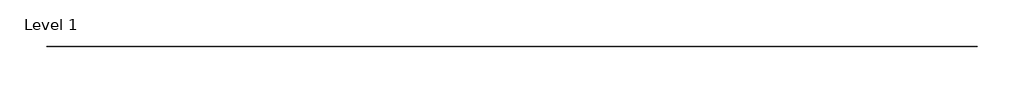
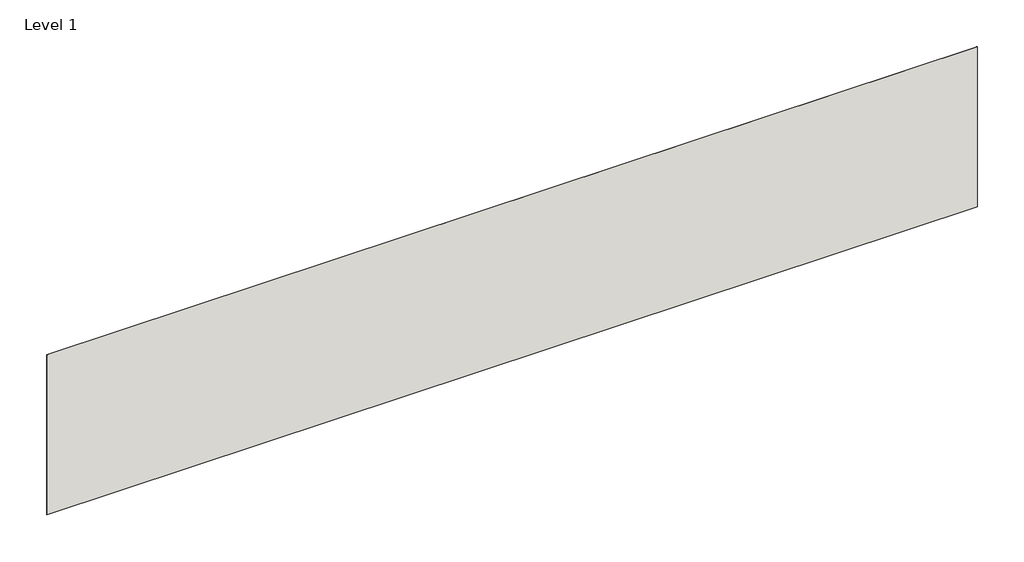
# One storey: 1 wall.
"""IFC4 building model written with IfcOpenShell, lengths in millimetres."""

import ifcopenshell
import ifcopenshell.guid

model = None  # the IFC model being written
_history = None  # IfcOwnerHistory: only IFC2X3 demands one
_inside = {}  # id of a spatial element -> (the spatial element, [elements in it])
_under = {}  # id of a project, library or spatial element -> (it, [spatial elements below it])
_declared = {}  # id of a project -> (the project, [libraries it declares])
_typed = {}  # id of a type object -> (the type object, [elements of that type])
_made_of = {}  # id of a material, layer set ... -> (it, [elements and type objects made of it])


def new_model(schema):
    """Start an empty IFC model of exactly this schema.

    Asked for "IFC4X3", IfcOpenShell would pick the latest addendum, in which some entities
    have other attributes; the version numbers below select the first issue.
    IFC2X3 requires an IfcOwnerHistory on every rooted entity: one is made here for all.
    """
    global model, _history
    if schema == "IFC4X3":
        model = ifcopenshell.file(schema_version=(4, 3, 0, 0))
    else:
        model = ifcopenshell.file(schema=schema)
    _inside.clear()
    _under.clear()
    _declared.clear()
    _typed.clear()
    _made_of.clear()
    _history = None
    if model.schema == "IFC2X3":
        org = make("IfcOrganization", Name="unknown")
        user = make(
            "IfcPersonAndOrganization",
            ThePerson=make("IfcPerson", FamilyName="unknown"),
            TheOrganization=org,
        )
        app = make(
            "IfcApplication",
            ApplicationDeveloper=org,
            Version="unknown",
            ApplicationFullName="unknown",
            ApplicationIdentifier="unknown",
        )
        _history = make(
            "IfcOwnerHistory",
            OwningUser=user,
            OwningApplication=app,
            ChangeAction="ADDED",
            CreationDate=0,
        )
    return model


def make(cls, **values):
    """One entity of the class cls with the attributes given. An attribute that is None is left unset."""
    return model.create_entity(
        cls, **{name: value for name, value in values.items() if value is not None}
    )


def rooted(cls, **values):
    """An entity with a GlobalId (a new one), such as an element, a storey or a relation."""
    return make(cls, GlobalId=ifcopenshell.guid.new(), OwnerHistory=_history, **values)


def si_unit(unit_type, name, prefix=None):
    """IfcSIUnit, for example si_unit("LENGTHUNIT", "METRE", prefix="MILLI")."""
    return make("IfcSIUnit", UnitType=unit_type, Prefix=prefix, Name=name)


def assignment(units):
    """IfcUnitAssignment: the units of a project."""
    return None if units is None else make("IfcUnitAssignment", Units=units)


def point(xyz):
    """IfcCartesianPoint."""
    return None if xyz is None else make("IfcCartesianPoint", Coordinates=xyz)


def direction(xyz):
    """IfcDirection."""
    return None if xyz is None else make("IfcDirection", DirectionRatios=xyz)


def frame(location, z_axis=None, x_axis=None):
    """IfcAxis2Placement3D, a coordinate frame: its origin and axes. An axis left out is left unset."""
    return make(
        "IfcAxis2Placement3D",
        Location=point(location),
        Axis=direction(z_axis),
        RefDirection=direction(x_axis),
    )


def origin():
    """The frame at (0, 0, 0) with its axes left unset."""
    return frame((0.0, 0.0, 0.0))


def origin_with_axes():
    """The frame at (0, 0, 0) with the z axis (0, 0, 1) and the x axis (1, 0, 0) written out."""
    return frame((0.0, 0.0, 0.0), z_axis=(0.0, 0.0, 1.0), x_axis=(1.0, 0.0, 0.0))


def place(relative_to, where):
    """IfcLocalPlacement: puts the frame where relative to a parent placement (None: the world)."""
    return make(
        "IfcLocalPlacement", PlacementRelTo=relative_to, RelativePlacement=where
    )


def context(
    kind, dimensions, precision=None, world=None, true_north=None, identifier=None
):
    """IfcGeometricRepresentationContext, for example the 3D "Model" context."""
    return make(
        "IfcGeometricRepresentationContext",
        ContextIdentifier=identifier,
        ContextType=kind,
        CoordinateSpaceDimension=dimensions,
        Precision=precision,
        WorldCoordinateSystem=world,
        TrueNorth=true_north,
    )


def project(units=None, contexts=None):
    """IfcProject with its units and contexts."""
    return rooted(
        "IfcProject",
        Name="project",
        RepresentationContexts=contexts,
        UnitsInContext=assignment(units),
    )


def spatial(cls, under=None, at=None, **own):
    """A site, building, storey or space (cls), placed at a placement, below another one or the project."""
    s = rooted(cls, ObjectPlacement=at, **own)
    if under is not None:
        _under.setdefault(under.id(), (under, []))[1].append(s)
    return s


def polyline(points):
    """IfcPolyline through the points."""
    return make("IfcPolyline", Points=[point(p) for p in points])


def outline(outer, holes=None, kind="AREA"):
    """IfcArbitraryClosedProfileDef: a profile drawn as a closed curve; with holes, ...WithVoids."""
    if holes is None:
        return make("IfcArbitraryClosedProfileDef", ProfileType=kind, OuterCurve=outer)
    return make(
        "IfcArbitraryProfileDefWithVoids",
        ProfileType=kind,
        OuterCurve=outer,
        InnerCurves=holes,
    )


def extrude(swept, where, along, depth):
    """IfcExtrudedAreaSolid: the profile swept, set in the frame where, extruded along a direction by depth."""
    return make(
        "IfcExtrudedAreaSolid",
        SweptArea=swept,
        Position=where,
        ExtrudedDirection=direction(along),
        Depth=depth,
    )


def shape(context_of_items, identifier, shape_type, items):
    """IfcShapeRepresentation: the items that make up one representation, for example the "Body"."""
    return make(
        "IfcShapeRepresentation",
        ContextOfItems=context_of_items,
        RepresentationIdentifier=identifier,
        RepresentationType=shape_type,
        Items=items,
    )


def made_of(thing, what):
    """Note that an element or type object is made of a material, layer set ...; save() writes the relation."""
    if what is not None:
        _made_of.setdefault(what.id(), (what, []))[1].append(thing)
    return thing


def element(
    cls,
    number,
    at=None,
    inside=None,
    cuts=None,
    type_object=None,
    material=None,
    context=None,
    identifier="Body",
    shape_type=None,
    held_by="IfcProductDefinitionShape",
    body=None,
    shapes=None,
    **own,
):
    """One element of the class cls, such as IfcWall. Its Tag is "e" and its number.

    at: its placement. inside: the storey or other place that contains it. cuts: it is an
    opening in that element (IfcRelVoidsElement). A single representation is given by context,
    identifier, shape_type and body (its items); several are given by shapes. held_by: the class
    of the entity that holds the representations. save() writes the other relations.
    """
    e = rooted(cls, Tag="e%d" % number, ObjectPlacement=at, **own)
    if body is not None:
        shapes = [shape(context, identifier, shape_type, body)]
    if shapes is not None:
        e.Representation = make(held_by, Representations=shapes)
    if inside is not None:
        _inside.setdefault(inside.id(), (inside, []))[1].append(e)
    if cuts is not None:
        rooted(
            "IfcRelVoidsElement", RelatingBuildingElement=cuts, RelatedOpeningElement=e
        )
    if type_object is not None:
        _typed.setdefault(type_object.id(), (type_object, []))[1].append(e)
    return made_of(e, material)


def aggregate(whole, parts):
    """IfcRelAggregates: a whole, such as a stair, and the parts it consists of."""
    return rooted("IfcRelAggregates", RelatingObject=whole, RelatedObjects=parts)


def save(model, path):
    """Write the relations noted so far, then the file.

    IfcRelAggregates (storeys below a building ...), IfcRelContainedInSpatialStructure (elements
    in a storey), IfcRelDefinesByType, IfcRelAssociatesMaterial and IfcRelDeclares: one each for
    every whole, place, type object, material and project.
    """
    for whole, parts in _under.values():
        aggregate(whole, parts)
    for where, things in _inside.values():
        rooted(
            "IfcRelContainedInSpatialStructure",
            RelatedElements=things,
            RelatingStructure=where,
        )
    for kind, things in _typed.values():
        rooted("IfcRelDefinesByType", RelatedObjects=things, RelatingType=kind)
    for what, things in _made_of.values():
        rooted("IfcRelAssociatesMaterial", RelatedObjects=things, RelatingMaterial=what)
    for by, libraries in _declared.values():
        rooted("IfcRelDeclares", RelatingContext=by, RelatedDefinitions=libraries)
    model.write(path)


model = new_model("IFC4")

# Units and contexts
model_context = context("Model", 3, world=origin())
ifc_project = project(units=[si_unit("LENGTHUNIT", "METRE", prefix="MILLI")], contexts=[model_context])

# Site, building, storey
site = spatial("IfcSite", under=ifc_project)
building = spatial("IfcBuilding", under=site)
storey = spatial("IfcBuildingStorey", under=building, Name="Level 1", Elevation=0.0)

# Wall
placement = place(None, origin())
element("IfcWall", 1, ObjectType="Struc10", at=placement, inside=storey, context=model_context, shape_type="SweptSolid", body=[
    extrude(outline(polyline([(10955.6497263, 13911.1856724), (-33044.3502737, 13911.1856724), (-33044.3502737, 13921.1856724), (10955.6497263, 13921.1856724), (10955.6497263, 13911.1856724)])), origin_with_axes(), (0.0, 0.0, 1.0), 8000.0),
])

save(model, "model.ifc")
